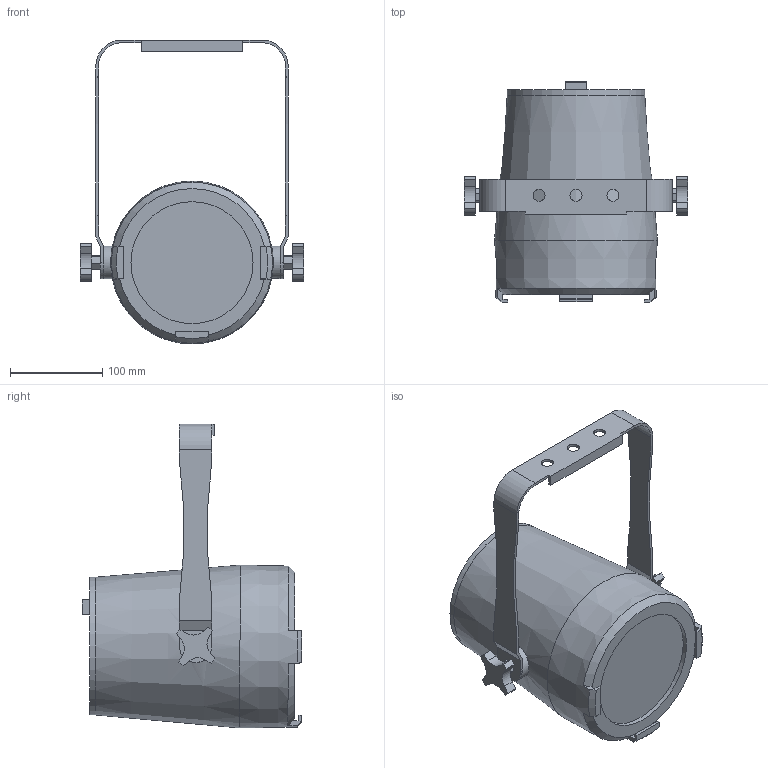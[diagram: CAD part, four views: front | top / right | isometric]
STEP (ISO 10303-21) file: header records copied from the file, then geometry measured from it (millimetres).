
FILE_DESCRIPTION(/* description */ (''),/* implementation_level */ '2;1');
FILE_NAME(/* name */ 'D:/dgooch/Documents/CADENG/PRO/COLORado 1 Solo/90/3D/COLORado 1 Solo_90.step',/* time_stamp */ '2019-09-11T11:06:06-04:00',/* author */ (''),/* organization */ (''),/* preprocessor_version */ 'ST-DEVELOPER v18',/* originating_system */ 'Autodesk Translation Framework v8.6.0.1094',/* authorisation */ '');
FILE_SCHEMA (('AUTOMOTIVE_DESIGN { 1 0 10303 214 3 1 1 }'));
Length unit declared in the file: millimetre
Products named in the file (3): COLORado 1 Solo; Bracket; Main
Assembly tree (2 placements, depth 2):
  COLORado 1 Solo
    Bracket
    Main
Bounding box: 241.96 x 237.91 x 328.74 mm (x, y, z)
Volume: 4831478.5 mm3; surface area: 231875.4 mm2
Topology: 2 solids, 2 shells, 136 faces, 379 edges, 255 vertices
Faces by surface type: plane 89, cylinder 38, cone 9
Full cylindrical faces by diameter (mm): 8 x2, 13 x3, 35 x2, 132 x1
Entity records: 4623 total; most frequent: CARTESIAN_POINT 983, ORIENTED_EDGE 758, DIRECTION 732, EDGE_CURVE 379, VERTEX_POINT 255, LINE 252, VECTOR 252, AXIS2_PLACEMENT_3D 240
